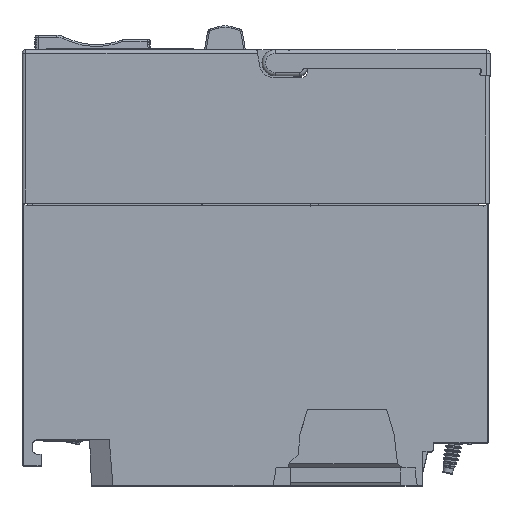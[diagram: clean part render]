
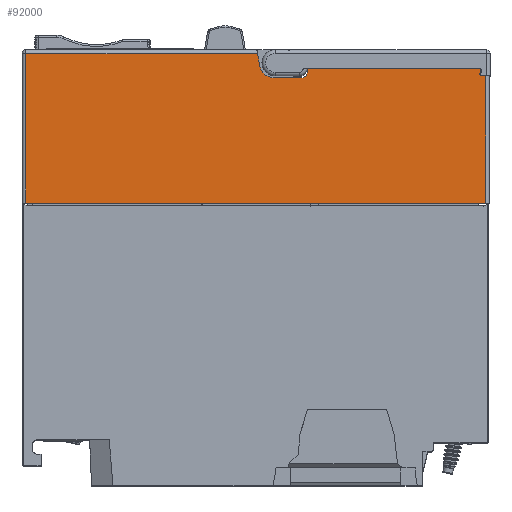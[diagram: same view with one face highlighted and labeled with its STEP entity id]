
A CAD part, top view. The second image highlights one B-rep face of the part: STEP entity #92000.
In plain terms, the highlighted planar face has unit normal (0, 0, 1).
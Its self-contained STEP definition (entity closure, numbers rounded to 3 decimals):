
#82019=DIRECTION('',(0.174,-0.985,0.));
#82020=VECTOR('',#82019,3.244);
#82021=CARTESIAN_POINT('',(0.497,115.6,20.));
#82022=LINE('',#82021,#82020);
#82023=CARTESIAN_POINT('',(5.,113.1,20.));
#82024=DIRECTION('',(0.,0.,1.));
#82025=DIRECTION('',(-0.985,-0.174,0.));
#82026=AXIS2_PLACEMENT_3D('',#82023,#82024,#82025);
#82028=DIRECTION('',(1.,0.,0.));
#82029=VECTOR('',#82028,7.);
#82030=CARTESIAN_POINT('',(5.,109.1,20.));
#82031=LINE('',#82030,#82029);
#82032=CARTESIAN_POINT('',(12.,111.1,20.));
#82033=DIRECTION('',(0.,0.,1.));
#82034=DIRECTION('',(0.,-1.,0.));
#82035=AXIS2_PLACEMENT_3D('',#82032,#82033,#82034);
#82037=DIRECTION('',(0.,1.,0.));
#82038=VECTOR('',#82037,0.4);
#82039=CARTESIAN_POINT('',(14.,111.1,20.));
#82040=LINE('',#82039,#82038);
#82041=DIRECTION('',(1.,0.,0.));
#82042=VECTOR('',#82041,46.096);
#82043=CARTESIAN_POINT('',(14.,111.5,20.));
#82044=LINE('',#82043,#82042);
#82045=DIRECTION('',(0.087,-0.996,0.));
#82046=VECTOR('',#82045,1.016);
#82047=CARTESIAN_POINT('',(60.096,111.5,20.));
#82048=LINE('',#82047,#82046);
#82049=CARTESIAN_POINT('',(60.5,110.1,20.));
#82050=DIRECTION('',(0.,0.,1.));
#82051=DIRECTION('',(-0.63,0.776,0.));
#82052=AXIS2_PLACEMENT_3D('',#82049,#82050,#82051);
#82054=DIRECTION('',(1.,0.,0.));
#82055=VECTOR('',#82054,1.);
#82056=CARTESIAN_POINT('',(60.5,109.6,20.));
#82057=LINE('',#82056,#82055);
#82058=DIRECTION('',(0.,-1.,0.));
#82059=VECTOR('',#82058,34.);
#82060=CARTESIAN_POINT('',(61.5,109.6,20.));
#82061=LINE('',#82060,#82059);
#82062=DIRECTION('',(1.,0.,0.));
#82063=VECTOR('',#82062,123.);
#82064=CARTESIAN_POINT('',(-61.5,75.6,20.));
#82065=LINE('',#82064,#82063);
#82066=DIRECTION('',(0.,1.,0.));
#82067=VECTOR('',#82066,40.);
#82068=CARTESIAN_POINT('',(-61.5,75.6,20.));
#82069=LINE('',#82068,#82067);
#82070=DIRECTION('',(1.,0.,0.));
#82071=VECTOR('',#82070,61.997);
#82072=CARTESIAN_POINT('',(-61.5,115.6,20.));
#82073=LINE('',#82072,#82071);
#89437=CARTESIAN_POINT('',(0.497,115.6,20.));
#89438=CARTESIAN_POINT('',(1.061,112.405,20.));
#89439=VERTEX_POINT('',#89437);
#89440=VERTEX_POINT('',#89438);
#89441=CARTESIAN_POINT('',(14.,111.5,20.));
#89442=CARTESIAN_POINT('',(14.,111.1,20.));
#89443=VERTEX_POINT('',#89441);
#89444=VERTEX_POINT('',#89442);
#89445=CARTESIAN_POINT('',(60.096,111.5,20.));
#89446=VERTEX_POINT('',#89445);
#89447=CARTESIAN_POINT('',(60.185,110.488,20.));
#89448=VERTEX_POINT('',#89447);
#89449=CARTESIAN_POINT('',(60.5,109.6,20.));
#89450=VERTEX_POINT('',#89449);
#89451=CARTESIAN_POINT('',(61.5,109.6,20.));
#89452=VERTEX_POINT('',#89451);
#89497=CARTESIAN_POINT('',(-61.5,75.6,20.));
#89498=CARTESIAN_POINT('',(61.5,75.6,20.));
#89499=VERTEX_POINT('',#89497);
#89500=VERTEX_POINT('',#89498);
#89739=CARTESIAN_POINT('',(-61.5,115.6,20.));
#89740=VERTEX_POINT('',#89739);
#89969=CARTESIAN_POINT('',(12.,109.1,20.));
#89970=CARTESIAN_POINT('',(5.,109.1,20.));
#89971=VERTEX_POINT('',#89969);
#89972=VERTEX_POINT('',#89970);
#91967=CARTESIAN_POINT('',(62.5,116.6,20.));
#91968=DIRECTION('',(0.,0.,-1.));
#91969=DIRECTION('',(-1.,0.,0.));
#91970=AXIS2_PLACEMENT_3D('',#91967,#91968,#91969);
#91971=PLANE('',#91970);
#91973=ORIENTED_EDGE('',*,*,#91972,.T.);
#91975=ORIENTED_EDGE('',*,*,#91974,.T.);
#91977=ORIENTED_EDGE('',*,*,#91976,.T.);
#91979=ORIENTED_EDGE('',*,*,#91978,.T.);
#91981=ORIENTED_EDGE('',*,*,#91980,.T.);
#91983=ORIENTED_EDGE('',*,*,#91982,.T.);
#91985=ORIENTED_EDGE('',*,*,#91984,.T.);
#91987=ORIENTED_EDGE('',*,*,#91986,.T.);
#91989=ORIENTED_EDGE('',*,*,#91988,.T.);
#91991=ORIENTED_EDGE('',*,*,#91990,.T.);
#91993=ORIENTED_EDGE('',*,*,#91992,.F.);
#91995=ORIENTED_EDGE('',*,*,#91994,.T.);
#91997=ORIENTED_EDGE('',*,*,#91996,.T.);
#91998=EDGE_LOOP('',(#91973,#91975,#91977,#91979,#91981,#91983,#91985,#91987,
#91989,#91991,#91993,#91995,#91997));
#91999=FACE_OUTER_BOUND('',#91998,.F.);
#92000=ADVANCED_FACE('',(#91999),#91971,.F.);
#82027=CIRCLE('',#82026,4.);
#82036=CIRCLE('',#82035,2.);
#82053=CIRCLE('',#82052,0.5);
#91972=EDGE_CURVE('',#89439,#89440,#82022,.T.);
#91974=EDGE_CURVE('',#89440,#89972,#82027,.T.);
#91976=EDGE_CURVE('',#89972,#89971,#82031,.T.);
#91978=EDGE_CURVE('',#89971,#89444,#82036,.T.);
#91980=EDGE_CURVE('',#89444,#89443,#82040,.T.);
#91982=EDGE_CURVE('',#89443,#89446,#82044,.T.);
#91984=EDGE_CURVE('',#89446,#89448,#82048,.T.);
#91986=EDGE_CURVE('',#89448,#89450,#82053,.T.);
#91988=EDGE_CURVE('',#89450,#89452,#82057,.T.);
#91990=EDGE_CURVE('',#89452,#89500,#82061,.T.);
#91992=EDGE_CURVE('',#89499,#89500,#82065,.T.);
#91994=EDGE_CURVE('',#89499,#89740,#82069,.T.);
#91996=EDGE_CURVE('',#89740,#89439,#82073,.T.);
